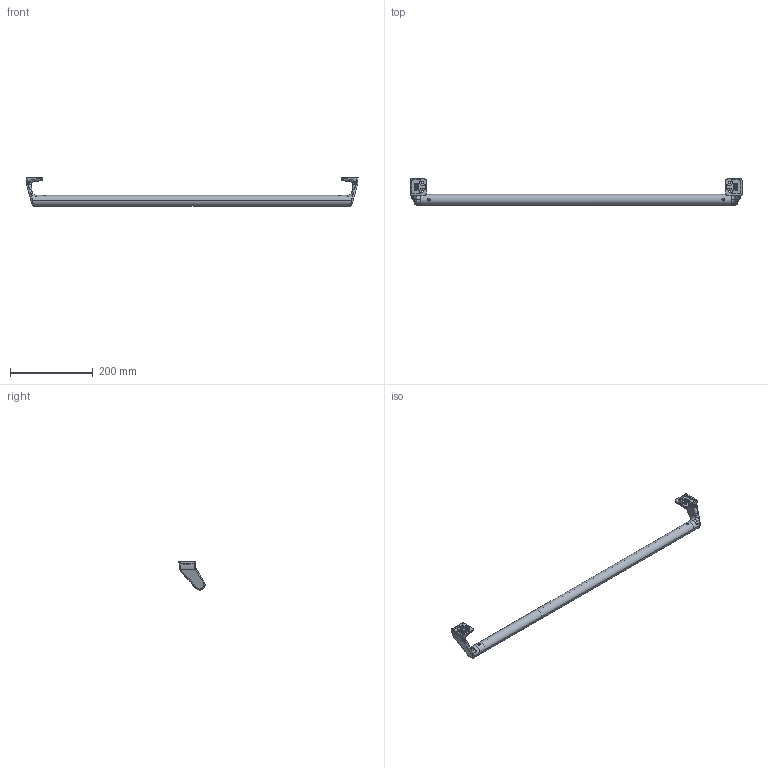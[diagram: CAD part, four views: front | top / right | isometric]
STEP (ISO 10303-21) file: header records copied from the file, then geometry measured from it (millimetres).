
FILE_DESCRIPTION (( 'STEP AP214' ), '1' );
FILE_NAME ('A73 KA-1223-6.STEP', '2016-11-24T02:36:32', ( '' ), ( '' ), 'SwSTEP 2.0', 'SolidWorks 2011', '' );
FILE_SCHEMA (( 'AUTOMOTIVE_DESIGN' ));
Length unit declared in the file: millimetre
Products named in the file (1): A73 KA-1223-6
Bounding box: 800 x 62.8 x 67.8 mm (x, y, z)
Volume: 171389.1 mm3; surface area: 135234.4 mm2
Topology: 1 solids, 1 shells, 520 faces, 1374 edges, 876 vertices
Faces by surface type: plane 254, bspline 146, cylinder 92, cone 28
Entity records: 23944 total; most frequent: CARTESIAN_POINT 12019, ORIENTED_EDGE 2724, DIRECTION 1936, EDGE_CURVE 1362, VERTEX_POINT 876, VECTOR 850, LINE 850, EDGE_LOOP 566
